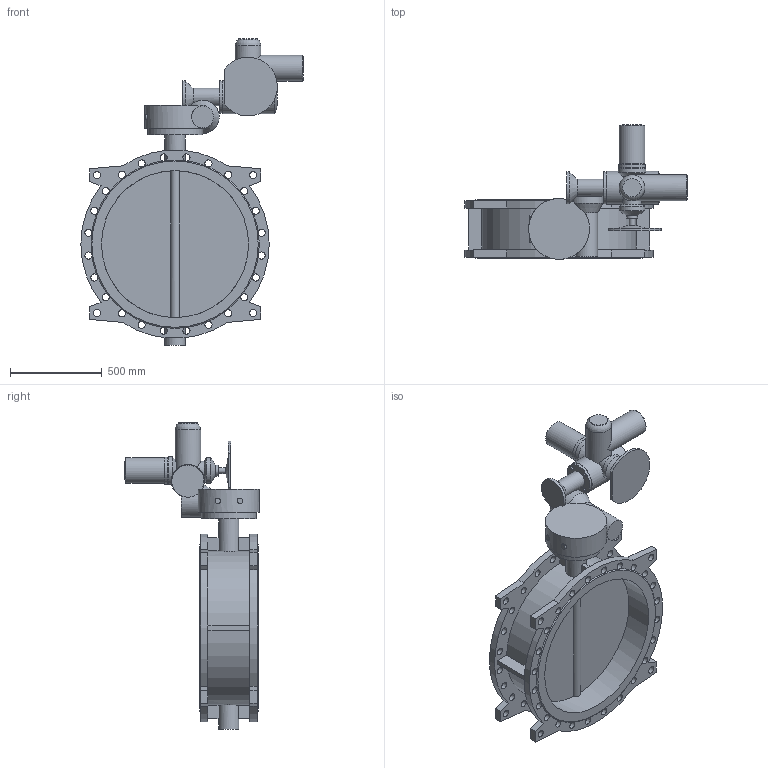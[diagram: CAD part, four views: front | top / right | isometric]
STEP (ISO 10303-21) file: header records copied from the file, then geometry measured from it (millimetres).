
FILE_DESCRIPTION(('STEP AP203'), '1');
FILE_NAME('Çàòâîð 021F.Y DN800 +ðåäóêòîð+ÌÒ903.À30-34', '', ('UNSPECIFIED'), ('UNSPECIFIED'), 'ASCON STEP Converter 1.6', 'ASCON Math Kernel', '');
FILE_SCHEMA(('CONFIG_CONTROL_DESIGN'));
Length unit declared in the file: millimetre
Bounding box: 1209.5 x 732.73 x 1667 mm (x, y, z)
Volume: 93931152.7 mm3; surface area: 5678858.5 mm2
Topology: 1 solids, 1 shells, 233 faces, 716 edges, 473 vertices
Faces by surface type: cylinder 122, plane 97, cone 13, torus 1
Full cylindrical faces by diameter (mm): 14 x12, 18 x12, 30 x2, 32 x1, 39 x56, 60 x1, 95 x1, 100 x1, 110 x2, 120 x1, 140 x4, 147 x1, 151 x1, 175 x1, 180 x2, 300 x1, 800 x2
Entity records: 16059 total; most frequent: CARTESIAN_POINT 7984, DIRECTION 1234, ORIENTED_EDGE 1206, EDGE_CURVE 603, AXIS2_PLACEMENT_3D 539, VERTEX_POINT 473, EDGE_LOOP 448, CIRCLE 305
